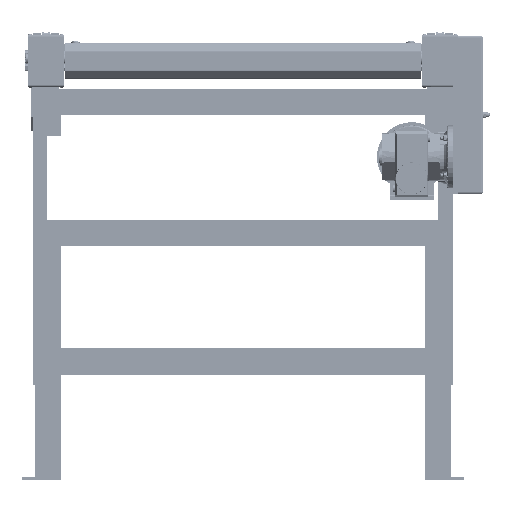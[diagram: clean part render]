
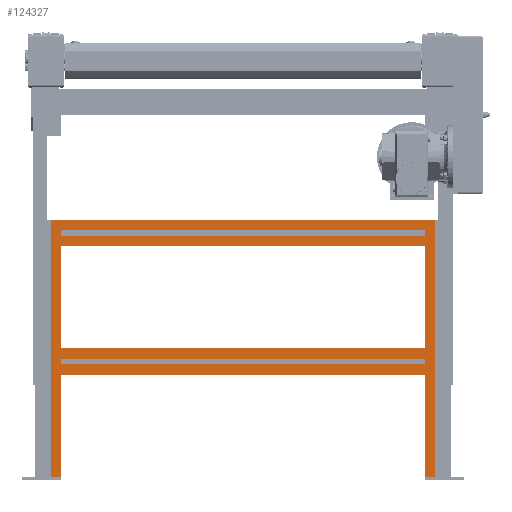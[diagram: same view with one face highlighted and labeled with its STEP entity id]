
A CAD part, front view. The second image highlights one B-rep face of the part: STEP entity #124327.
In plain terms, the highlighted planar face has unit normal (0, -1, 0).
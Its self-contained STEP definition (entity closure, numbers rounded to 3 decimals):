
#3337=LINE('',#184813,#12520);
#3532=LINE('',#185216,#12715);
#3534=LINE('',#185222,#12717);
#3566=LINE('',#185289,#12749);
#3574=LINE('',#185306,#12757);
#3596=LINE('',#185350,#12779);
#3690=LINE('',#185533,#12873);
#3873=LINE('',#185893,#13056);
#3877=LINE('',#185900,#13060);
#3889=LINE('',#185924,#13072);
#3892=LINE('',#185930,#13075);
#3916=LINE('',#185977,#13099);
#3919=LINE('',#185983,#13102);
#3926=LINE('',#185993,#13109);
#3960=LINE('',#186061,#13143);
#3972=LINE('',#186085,#13155);
#3974=LINE('',#186088,#13157);
#3994=LINE('',#186126,#13177);
#4025=LINE('',#186184,#13208);
#4026=LINE('',#186185,#13209);
#12520=VECTOR('',#147364,19.95);
#12715=VECTOR('',#147673,194.5);
#12717=VECTOR('',#147677,194.5);
#12749=VECTOR('',#147723,10.1);
#12757=VECTOR('',#147733,10.1);
#12779=VECTOR('',#147767,489.);
#12873=VECTOR('',#147925,19.95);
#13056=VECTOR('',#148282,691.);
#13060=VECTOR('',#148288,691.);
#13072=VECTOR('',#148312,691.);
#13075=VECTOR('',#148317,691.);
#13099=VECTOR('',#148363,194.5);
#13102=VECTOR('',#148372,194.5);
#13109=VECTOR('',#148381,10.1);
#13143=VECTOR('',#148443,691.);
#13155=VECTOR('',#148467,691.);
#13157=VECTOR('',#148471,691.);
#13177=VECTOR('',#148515,10.1);
#13208=VECTOR('',#148566,730.9);
#13209=VECTOR('',#148567,489.);
#20707=PLANE('',#131509);
#23941=FACE_BOUND('',#34676,.T.);
#23942=FACE_BOUND('',#34677,.T.);
#23943=FACE_BOUND('',#34678,.T.);
#27534=FACE_OUTER_BOUND('',#34675,.T.);
#34675=EDGE_LOOP('',(#83722,#83723,#83724,#83725,#83726,#83727,#83728,#83729));
#34676=EDGE_LOOP('',(#83730,#83731,#83732,#83733));
#34677=EDGE_LOOP('',(#83734,#83735,#83736,#83737));
#34678=EDGE_LOOP('',(#83738,#83739,#83740,#83741));
#51746=VERTEX_POINT('',#184810);
#51747=VERTEX_POINT('',#184812);
#51887=VERTEX_POINT('',#185193);
#51898=VERTEX_POINT('',#185214);
#51900=VERTEX_POINT('',#185219);
#51901=VERTEX_POINT('',#185221);
#51928=VERTEX_POINT('',#185286);
#51929=VERTEX_POINT('',#185288);
#51935=VERTEX_POINT('',#185302);
#51937=VERTEX_POINT('',#185305);
#51951=VERTEX_POINT('',#185346);
#51953=VERTEX_POINT('',#185349);
#52099=VERTEX_POINT('',#185890);
#52102=VERTEX_POINT('',#185897);
#52108=VERTEX_POINT('',#185922);
#52110=VERTEX_POINT('',#185927);
#52122=VERTEX_POINT('',#185975);
#52144=VERTEX_POINT('',#186058);
#52150=VERTEX_POINT('',#186083);
#52173=VERTEX_POINT('',#186183);
#64047=EDGE_CURVE('',#51746,#51747,#3337,.T.);
#64252=EDGE_CURVE('',#51898,#51887,#3532,.T.);
#64254=EDGE_CURVE('',#51900,#51901,#3534,.T.);
#64286=EDGE_CURVE('',#51928,#51929,#3566,.T.);
#64294=EDGE_CURVE('',#51935,#51937,#3574,.T.);
#64316=EDGE_CURVE('',#51953,#51951,#3596,.T.);
#64410=EDGE_CURVE('',#51898,#51953,#3690,.T.);
#64595=EDGE_CURVE('',#52099,#51900,#3873,.T.);
#64599=EDGE_CURVE('',#51929,#52102,#3877,.T.);
#64611=EDGE_CURVE('',#51928,#52108,#3889,.T.);
#64614=EDGE_CURVE('',#51887,#52110,#3892,.T.);
#64638=EDGE_CURVE('',#52099,#52122,#3916,.T.);
#64641=EDGE_CURVE('',#51746,#52110,#3919,.T.);
#64648=EDGE_CURVE('',#52108,#52102,#3926,.T.);
#64682=EDGE_CURVE('',#51937,#52144,#3960,.T.);
#64694=EDGE_CURVE('',#51935,#52150,#3972,.T.);
#64696=EDGE_CURVE('',#51901,#52122,#3974,.T.);
#64716=EDGE_CURVE('',#52150,#52144,#3994,.T.);
#64747=EDGE_CURVE('',#52173,#51951,#4025,.T.);
#64748=EDGE_CURVE('',#51747,#52173,#4026,.T.);
#83722=ORIENTED_EDGE('',*,*,#64614,.F.);
#83723=ORIENTED_EDGE('',*,*,#64252,.F.);
#83724=ORIENTED_EDGE('',*,*,#64410,.T.);
#83725=ORIENTED_EDGE('',*,*,#64316,.T.);
#83726=ORIENTED_EDGE('',*,*,#64747,.F.);
#83727=ORIENTED_EDGE('',*,*,#64748,.F.);
#83728=ORIENTED_EDGE('',*,*,#64047,.F.);
#83729=ORIENTED_EDGE('',*,*,#64641,.T.);
#83730=ORIENTED_EDGE('',*,*,#64595,.F.);
#83731=ORIENTED_EDGE('',*,*,#64638,.T.);
#83732=ORIENTED_EDGE('',*,*,#64696,.F.);
#83733=ORIENTED_EDGE('',*,*,#64254,.F.);
#83734=ORIENTED_EDGE('',*,*,#64599,.F.);
#83735=ORIENTED_EDGE('',*,*,#64286,.F.);
#83736=ORIENTED_EDGE('',*,*,#64611,.T.);
#83737=ORIENTED_EDGE('',*,*,#64648,.T.);
#83738=ORIENTED_EDGE('',*,*,#64682,.F.);
#83739=ORIENTED_EDGE('',*,*,#64294,.F.);
#83740=ORIENTED_EDGE('',*,*,#64694,.T.);
#83741=ORIENTED_EDGE('',*,*,#64716,.T.);
#124327=ADVANCED_FACE('',(#27534,#23941,#23942,#23943),#20707,.T.);
#131509=AXIS2_PLACEMENT_3D('',#186182,#148564,#148565);
#147364=DIRECTION('',(-1.,0.,0.));
#147673=DIRECTION('',(0.,0.,1.));
#147677=DIRECTION('',(0.,0.,1.));
#147723=DIRECTION('',(0.,0.,1.));
#147733=DIRECTION('',(0.,0.,1.));
#147767=DIRECTION('',(0.,0.,1.));
#147925=DIRECTION('',(1.,0.,0.));
#148282=DIRECTION('',(1.,0.,0.));
#148288=DIRECTION('',(-1.,0.,0.));
#148312=DIRECTION('',(-1.,0.,0.));
#148317=DIRECTION('',(-1.,0.,0.));
#148363=DIRECTION('',(0.,0.,1.));
#148372=DIRECTION('',(0.,0.,1.));
#148381=DIRECTION('',(0.,0.,1.));
#148443=DIRECTION('',(-1.,0.,0.));
#148467=DIRECTION('',(-1.,0.,0.));
#148471=DIRECTION('',(-1.,0.,0.));
#148515=DIRECTION('',(0.,0.,1.));
#148564=DIRECTION('center_axis',(0.,-1.,0.));
#148565=DIRECTION('ref_axis',(0.,0.,1.));
#148566=DIRECTION('',(1.,0.,0.));
#148567=DIRECTION('',(0.,0.,1.));
#184810=CARTESIAN_POINT('',(-345.5,-325.,6.));
#184812=CARTESIAN_POINT('',(-365.45,-325.,6.));
#184813=CARTESIAN_POINT('',(-364.25,-325.,6.));
#185193=CARTESIAN_POINT('',(345.5,-325.,200.5));
#185214=CARTESIAN_POINT('',(345.5,-325.,6.));
#185216=CARTESIAN_POINT('',(345.5,-325.,6.));
#185219=CARTESIAN_POINT('',(345.5,-325.,250.5));
#185221=CARTESIAN_POINT('',(345.5,-325.,445.));
#185222=CARTESIAN_POINT('',(345.5,-325.,6.));
#185286=CARTESIAN_POINT('',(345.5,-325.,220.45));
#185288=CARTESIAN_POINT('',(345.5,-325.,230.55));
#185289=CARTESIAN_POINT('',(345.5,-325.,6.));
#185302=CARTESIAN_POINT('',(345.5,-325.,464.95));
#185305=CARTESIAN_POINT('',(345.5,-325.,475.05));
#185306=CARTESIAN_POINT('',(345.5,-325.,6.));
#185346=CARTESIAN_POINT('',(365.45,-325.,495.));
#185349=CARTESIAN_POINT('',(365.45,-325.,6.));
#185350=CARTESIAN_POINT('',(365.45,-325.,6.));
#185533=CARTESIAN_POINT('',(364.25,-325.,6.));
#185890=CARTESIAN_POINT('',(-345.5,-325.,250.5));
#185893=CARTESIAN_POINT('',(0.,-325.,250.5));
#185897=CARTESIAN_POINT('',(-345.5,-325.,230.55));
#185900=CARTESIAN_POINT('',(0.,-325.,230.55));
#185922=CARTESIAN_POINT('',(-345.5,-325.,220.45));
#185924=CARTESIAN_POINT('',(0.,-325.,220.45));
#185927=CARTESIAN_POINT('',(-345.5,-325.,200.5));
#185930=CARTESIAN_POINT('',(0.,-325.,200.5));
#185975=CARTESIAN_POINT('',(-345.5,-325.,445.));
#185977=CARTESIAN_POINT('',(-345.5,-325.,6.));
#185983=CARTESIAN_POINT('',(-345.5,-325.,6.));
#185993=CARTESIAN_POINT('',(-345.5,-325.,6.));
#186058=CARTESIAN_POINT('',(-345.5,-325.,475.05));
#186061=CARTESIAN_POINT('',(0.,-325.,475.05));
#186083=CARTESIAN_POINT('',(-345.5,-325.,464.95));
#186085=CARTESIAN_POINT('',(0.,-325.,464.95));
#186088=CARTESIAN_POINT('',(0.,-325.,445.));
#186126=CARTESIAN_POINT('',(-345.5,-325.,6.));
#186182=CARTESIAN_POINT('Origin',(-345.5,-325.,6.));
#186183=CARTESIAN_POINT('',(-365.45,-325.,495.));
#186184=CARTESIAN_POINT('',(365.45,-325.,495.));
#186185=CARTESIAN_POINT('',(-365.45,-325.,6.));
